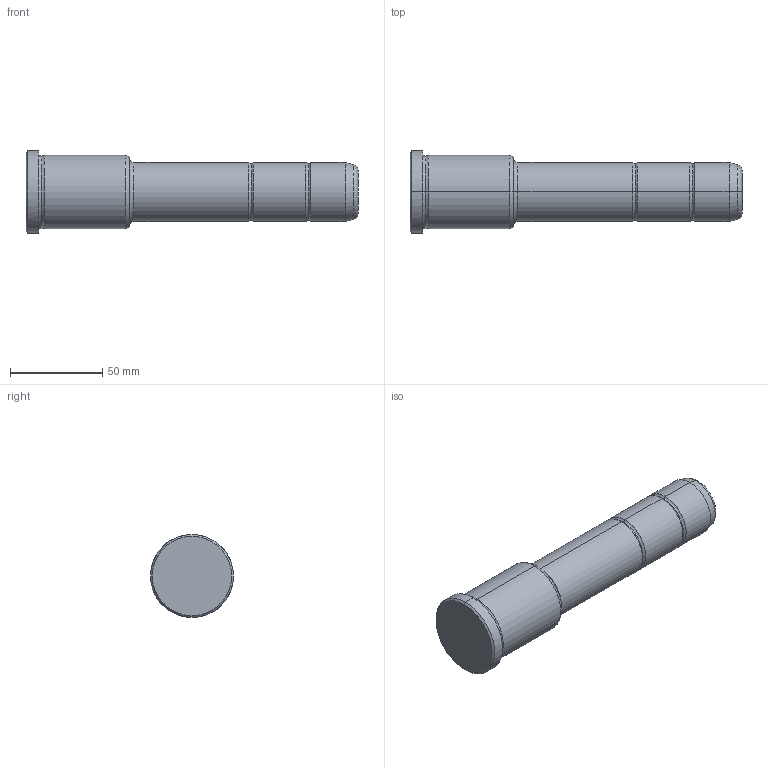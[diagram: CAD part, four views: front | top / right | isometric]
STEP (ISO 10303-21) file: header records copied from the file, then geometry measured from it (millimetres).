
FILE_DESCRIPTION(('CATIA V5 STEP Exchange'),'2;1');
FILE_NAME('C:\Users\Utente\Desktop\IO LAVORO\3D X SITO CF\X SITO\PLASTICA\351\351-32X56X180.stp','2021-09-07T12:34:56+00:00',('none'),('none'),'CATIA Version 5 Release 20 GA (IN-10)','CATIA V5 STEP AP203','none');
FILE_SCHEMA(('CONFIG_CONTROL_DESIGN'));
Length unit declared in the file: millimetre
Products named in the file (1): 351-32X56X180
Bounding box: 180 x 45 x 45 mm (x, y, z)
Volume: 171229.7 mm3; surface area: 22364.5 mm2
Topology: 1 solids, 1 shells, 36 faces, 102 edges, 70 vertices
Faces by surface type: torus 16, cylinder 10, cone 6, plane 4
Entity records: 1292 total; most frequent: CARTESIAN_POINT 321, ORIENTED_EDGE 204, DIRECTION 166, AXIS2_PLACEMENT_3D 115, EDGE_CURVE 102, CIRCLE 78, VERTEX_POINT 70, EDGE_LOOP 38
